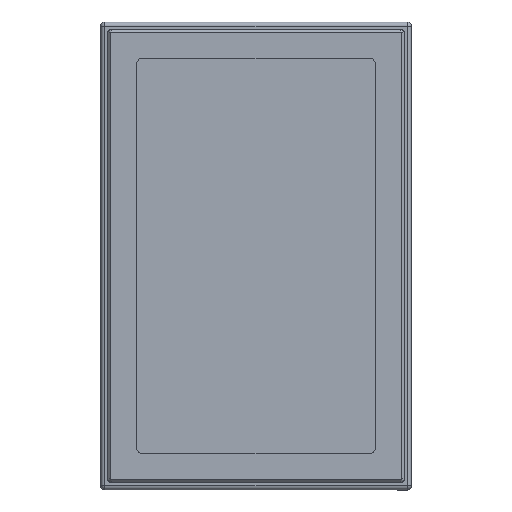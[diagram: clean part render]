
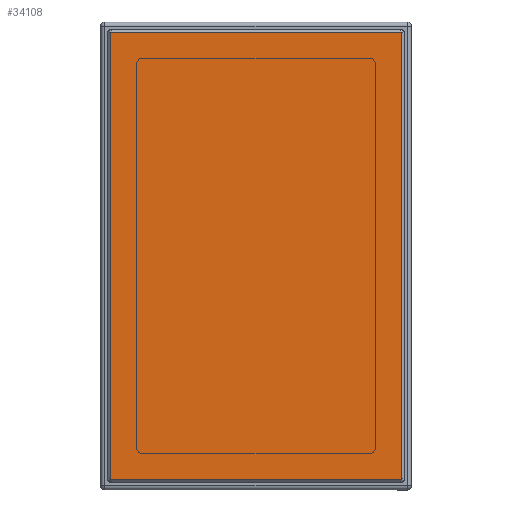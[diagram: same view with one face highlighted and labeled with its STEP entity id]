
A CAD part, top view. The second image highlights one B-rep face of the part: STEP entity #34108.
In plain terms, the highlighted planar face has unit normal (0, 0, 1).
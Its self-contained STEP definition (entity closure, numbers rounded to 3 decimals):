
#3642=LINE('',#61238,#6779);
#3643=LINE('',#61242,#6780);
#3644=LINE('',#61246,#6781);
#3645=LINE('',#61249,#6782);
#6779=VECTOR('',#47439,10.);
#6780=VECTOR('',#47442,10.);
#6781=VECTOR('',#47445,10.);
#6782=VECTOR('',#47448,10.);
#9481=FACE_OUTER_BOUND('',#11584,.T.);
#11584=EDGE_LOOP('',(#30763,#30764,#30765,#30766,#30767,#30768,#30769,#30770));
#13101=CIRCLE('',#37553,1.083);
#13102=CIRCLE('',#37554,1.083);
#13103=CIRCLE('',#37555,1.083);
#13104=CIRCLE('',#37556,1.083);
#16214=VERTEX_POINT('',#61234);
#16215=VERTEX_POINT('',#61235);
#16216=VERTEX_POINT('',#61237);
#16217=VERTEX_POINT('',#61239);
#16218=VERTEX_POINT('',#61241);
#16219=VERTEX_POINT('',#61243);
#16220=VERTEX_POINT('',#61245);
#16221=VERTEX_POINT('',#61247);
#21069=EDGE_CURVE('',#16214,#16215,#13101,.T.);
#21070=EDGE_CURVE('',#16216,#16214,#3642,.T.);
#21071=EDGE_CURVE('',#16217,#16216,#13102,.T.);
#21072=EDGE_CURVE('',#16218,#16217,#3643,.T.);
#21073=EDGE_CURVE('',#16219,#16218,#13103,.T.);
#21074=EDGE_CURVE('',#16220,#16219,#3644,.T.);
#21075=EDGE_CURVE('',#16221,#16220,#13104,.T.);
#21076=EDGE_CURVE('',#16215,#16221,#3645,.T.);
#30763=ORIENTED_EDGE('',*,*,#21069,.F.);
#30764=ORIENTED_EDGE('',*,*,#21070,.F.);
#30765=ORIENTED_EDGE('',*,*,#21071,.F.);
#30766=ORIENTED_EDGE('',*,*,#21072,.F.);
#30767=ORIENTED_EDGE('',*,*,#21073,.F.);
#30768=ORIENTED_EDGE('',*,*,#21074,.F.);
#30769=ORIENTED_EDGE('',*,*,#21075,.F.);
#30770=ORIENTED_EDGE('',*,*,#21076,.F.);
#31957=PLANE('',#37552);
#34108=ADVANCED_FACE('',(#9481),#31957,.T.);
#37552=AXIS2_PLACEMENT_3D('',#61233,#47435,#47436);
#37553=AXIS2_PLACEMENT_3D('',#61236,#47437,#47438);
#37554=AXIS2_PLACEMENT_3D('',#61240,#47440,#47441);
#37555=AXIS2_PLACEMENT_3D('',#61244,#47443,#47444);
#37556=AXIS2_PLACEMENT_3D('',#61248,#47446,#47447);
#47435=DIRECTION('center_axis',(0.,0.,1.));
#47436=DIRECTION('ref_axis',(1.,0.,0.));
#47437=DIRECTION('center_axis',(0.,0.,-1.));
#47438=DIRECTION('ref_axis',(0.,1.,0.));
#47439=DIRECTION('',(1.,0.,0.));
#47440=DIRECTION('center_axis',(0.,0.,-1.));
#47441=DIRECTION('ref_axis',(0.,1.,0.));
#47442=DIRECTION('',(0.,1.,0.));
#47443=DIRECTION('center_axis',(0.,0.,-1.));
#47444=DIRECTION('ref_axis',(0.,1.,0.));
#47445=DIRECTION('',(-1.,0.,0.));
#47446=DIRECTION('center_axis',(0.,0.,-1.));
#47447=DIRECTION('ref_axis',(0.,1.,0.));
#47448=DIRECTION('',(0.,-1.,0.));
#61233=CARTESIAN_POINT('Origin',(0.,0.,35.2));
#61234=CARTESIAN_POINT('',(206.5,319.583,35.2));
#61235=CARTESIAN_POINT('',(207.583,318.5,35.2));
#61236=CARTESIAN_POINT('Origin',(206.5,318.5,35.2));
#61237=CARTESIAN_POINT('',(-206.5,319.583,35.2));
#61238=CARTESIAN_POINT('',(0.,319.583,35.2));
#61239=CARTESIAN_POINT('',(-207.583,318.5,35.2));
#61240=CARTESIAN_POINT('Origin',(-206.5,318.5,35.2));
#61241=CARTESIAN_POINT('',(-207.583,-318.5,35.2));
#61242=CARTESIAN_POINT('',(-207.583,0.,35.2));
#61243=CARTESIAN_POINT('',(-206.5,-319.583,35.2));
#61244=CARTESIAN_POINT('Origin',(-206.5,-318.5,35.2));
#61245=CARTESIAN_POINT('',(206.5,-319.583,35.2));
#61246=CARTESIAN_POINT('',(0.,-319.583,35.2));
#61247=CARTESIAN_POINT('',(207.583,-318.5,35.2));
#61248=CARTESIAN_POINT('Origin',(206.5,-318.5,35.2));
#61249=CARTESIAN_POINT('',(207.583,0.,35.2));
